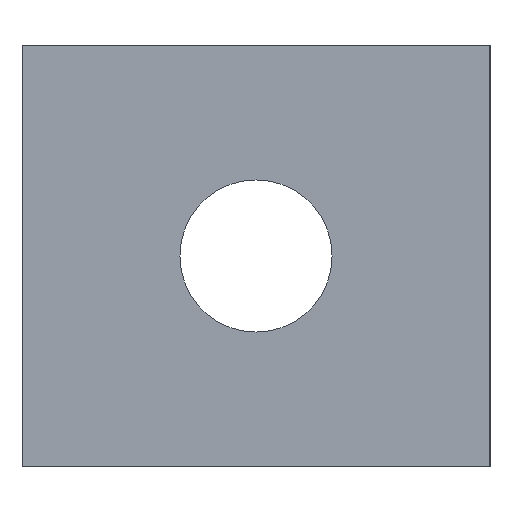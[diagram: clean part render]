
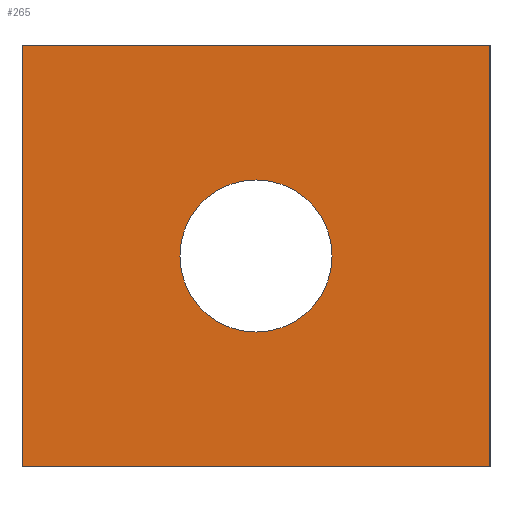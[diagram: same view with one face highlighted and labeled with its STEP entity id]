
A CAD part, left-side view. The second image highlights one B-rep face of the part: STEP entity #265.
In plain terms, the highlighted planar face has unit normal (-1, 0, 0).
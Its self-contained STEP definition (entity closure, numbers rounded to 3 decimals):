
#2 = EDGE_LOOP ( 'NONE', ( #444, #185 ) ) ;
#5 = CARTESIAN_POINT ( 'NONE',  ( 0., 0., -9. ) ) ;
#18 = FACE_OUTER_BOUND ( 'NONE', #398, .T. ) ;
#33 = CARTESIAN_POINT ( 'NONE',  ( 0., 0., 9. ) ) ;
#47 = VECTOR ( 'NONE', #170, 1000. ) ;
#53 = VECTOR ( 'NONE', #158, 1000. ) ;
#59 = CARTESIAN_POINT ( 'NONE',  ( 0., 20., 9. ) ) ;
#66 = LINE ( 'NONE', #59, #162 ) ;
#79 = CARTESIAN_POINT ( 'NONE',  ( 0., 0., 9. ) ) ;
#92 = DIRECTION ( 'NONE',  ( 0., 1., 0. ) ) ;
#93 = EDGE_CURVE ( 'NONE', #292, #290, #309, .T. ) ;
#96 = VERTEX_POINT ( 'NONE', #311 ) ;
#102 = VERTEX_POINT ( 'NONE', #227 ) ;
#129 = AXIS2_PLACEMENT_3D ( 'NONE', #392, #160, #429 ) ;
#132 = CARTESIAN_POINT ( 'NONE',  ( 0., 0., -9. ) ) ;
#133 = EDGE_CURVE ( 'NONE', #96, #184, #216, .T. ) ;
#148 = EDGE_CURVE ( 'NONE', #102, #292, #435, .T. ) ;
#158 = DIRECTION ( 'NONE',  ( 0., 0., -1. ) ) ;
#160 = DIRECTION ( 'NONE',  ( 1., 0., 0. ) ) ;
#162 = VECTOR ( 'NONE', #412, 1000. ) ;
#170 = DIRECTION ( 'NONE',  ( 0., -1., 0. ) ) ;
#184 = VERTEX_POINT ( 'NONE', #276 ) ;
#185 = ORIENTED_EDGE ( 'NONE', *, *, #133, .T. ) ;
#195 = DIRECTION ( 'NONE',  ( 1., 0., 0. ) ) ;
#210 = CARTESIAN_POINT ( 'NONE',  ( 0., 0., 9. ) ) ;
#214 = CARTESIAN_POINT ( 'NONE',  ( 0., 20., -9. ) ) ;
#216 = CIRCLE ( 'NONE', #129, 3.25 ) ;
#227 = CARTESIAN_POINT ( 'NONE',  ( 0., 20., 9. ) ) ;
#249 = DIRECTION ( 'NONE',  ( 1., 0., 0. ) ) ;
#259 = LINE ( 'NONE', #132, #47 ) ;
#265 = ADVANCED_FACE ( 'NONE', ( #441, #18 ), #520, .F. ) ;
#274 = DIRECTION ( 'NONE',  ( 0., 0., -1. ) ) ;
#276 = CARTESIAN_POINT ( 'NONE',  ( 0., 13.25, 0. ) ) ;
#277 = ORIENTED_EDGE ( 'NONE', *, *, #510, .T. ) ;
#280 = ORIENTED_EDGE ( 'NONE', *, *, #148, .F. ) ;
#287 = CARTESIAN_POINT ( 'NONE',  ( 0., 10., 0. ) ) ;
#290 = VERTEX_POINT ( 'NONE', #5 ) ;
#292 = VERTEX_POINT ( 'NONE', #210 ) ;
#309 = LINE ( 'NONE', #424, #53 ) ;
#311 = CARTESIAN_POINT ( 'NONE',  ( 0., 6.75, 0. ) ) ;
#327 = AXIS2_PLACEMENT_3D ( 'NONE', #287, #249, #92 ) ;
#328 = VECTOR ( 'NONE', #385, 1000. ) ;
#385 = DIRECTION ( 'NONE',  ( 0., -1., 0. ) ) ;
#392 = CARTESIAN_POINT ( 'NONE',  ( 0., 10., 0. ) ) ;
#398 = EDGE_LOOP ( 'NONE', ( #420, #495, #280, #277 ) ) ;
#406 = EDGE_CURVE ( 'NONE', #489, #290, #259, .T. ) ;
#410 = EDGE_CURVE ( 'NONE', #184, #96, #437, .T. ) ;
#412 = DIRECTION ( 'NONE',  ( 0., 0., -1. ) ) ;
#420 = ORIENTED_EDGE ( 'NONE', *, *, #406, .T. ) ;
#423 = AXIS2_PLACEMENT_3D ( 'NONE', #79, #195, #274 ) ;
#424 = CARTESIAN_POINT ( 'NONE',  ( 0., 0., 9. ) ) ;
#429 = DIRECTION ( 'NONE',  ( 0., 1., 0. ) ) ;
#435 = LINE ( 'NONE', #33, #328 ) ;
#437 = CIRCLE ( 'NONE', #327, 3.25 ) ;
#441 = FACE_BOUND ( 'NONE', #2, .T. ) ;
#444 = ORIENTED_EDGE ( 'NONE', *, *, #410, .T. ) ;
#489 = VERTEX_POINT ( 'NONE', #214 ) ;
#495 = ORIENTED_EDGE ( 'NONE', *, *, #93, .F. ) ;
#510 = EDGE_CURVE ( 'NONE', #102, #489, #66, .T. ) ;
#520 = PLANE ( 'NONE',  #423 ) ;
